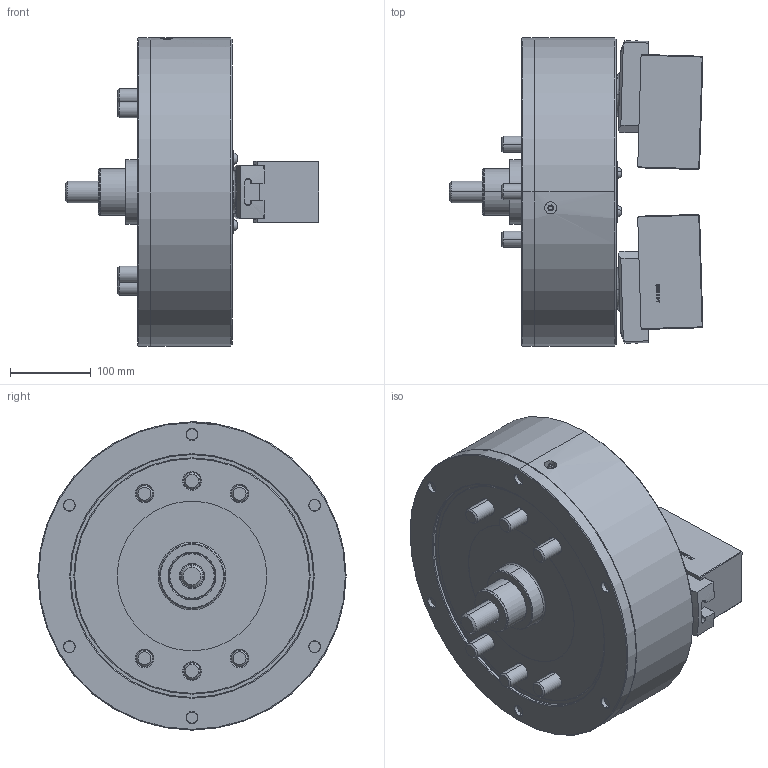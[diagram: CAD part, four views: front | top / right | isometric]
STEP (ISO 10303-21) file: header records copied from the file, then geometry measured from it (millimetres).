
FILE_DESCRIPTION (( 'STEP AP214' ), '1' );
FILE_NAME ('PWT15_OC_OD.STEP', '2019-10-23T01:31:46', ( '' ), ( '' ), 'SwSTEP 2.0', 'SolidWorks 2017', '' );
FILE_SCHEMA (( 'AUTOMOTIVE_DESIGN' ));
Length unit declared in the file: millimetre
Products named in the file (5): 結合_OD; 0030120030; 61P422878; 61P334597; PWT15_OC_OD
Assembly tree (9 placements, depth 2):
  PWT15_OC_OD
    61P334597  x2
    61P422878  x2
    0030120030  x4
    結合_OD
Bounding box: 313.74 x 381 x 381 mm (x, y, z)
Volume: 14914705.2 mm3; surface area: 766927.9 mm2
Topology: 9 solids, 10 shells, 1641 faces, 4017 edges, 2516 vertices
Faces by surface type: plane 873, cone 269, cylinder 234, bspline 209, torus 52, sphere 4
Entity records: 47061 total; most frequent: CARTESIAN_POINT 15691, ORIENTED_EDGE 6678, DIRECTION 5950, EDGE_CURVE 3339, VERTEX_POINT 2103, AXIS2_PLACEMENT_3D 1985, VECTOR 1980, LINE 1980
